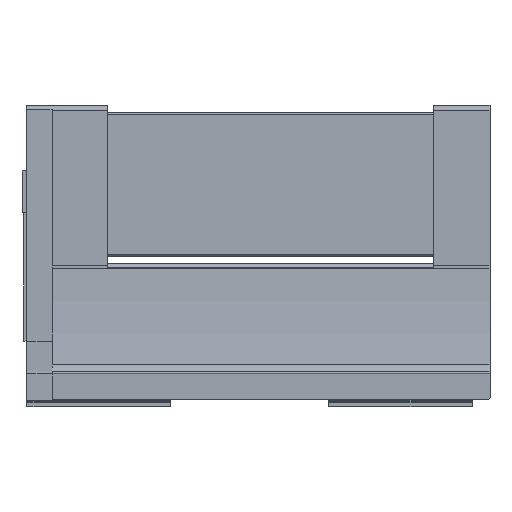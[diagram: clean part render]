
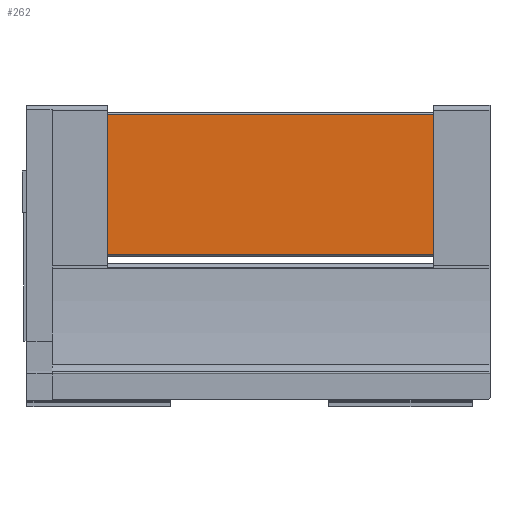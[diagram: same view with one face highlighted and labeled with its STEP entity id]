
A CAD part, left-side view. The second image highlights one B-rep face of the part: STEP entity #262.
In plain terms, the highlighted planar face has unit normal (-1, 0, 0).
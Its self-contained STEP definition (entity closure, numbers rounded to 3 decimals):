
#55 = EDGE_CURVE ( 'NONE', #1989, #1966, #2195, .T. ) ;
#59 = EDGE_CURVE ( 'NONE', #1962, #1989, #2184, .T. ) ;
#69 = EDGE_CURVE ( 'NONE', #1962, #1967, #2170, .T. ) ;
#214 = EDGE_CURVE ( 'NONE', #1967, #1966, #4370, .T. ) ;
#262 = ADVANCED_FACE ( 'NONE', ( #4391 ), #3214, .T. ) ;
#420 = AXIS2_PLACEMENT_3D ( 'NONE', #3217, #3223, #3224 ) ;
#1370 = CARTESIAN_POINT ( 'NONE',  ( -9.6, 239.3, 142.798 ) ) ;
#1374 = CARTESIAN_POINT ( 'NONE',  ( -9.6, 35.3, 55.298 ) ) ;
#1375 = CARTESIAN_POINT ( 'NONE',  ( -9.6, 35.3, 142.798 ) ) ;
#1397 = CARTESIAN_POINT ( 'NONE',  ( -9.6, 239.3, 55.298 ) ) ;
#1680 = ORIENTED_EDGE ( 'NONE', *, *, #69, .F. ) ;
#1681 = ORIENTED_EDGE ( 'NONE', *, *, #214, .F. ) ;
#1682 = ORIENTED_EDGE ( 'NONE', *, *, #59, .T. ) ;
#1697 = ORIENTED_EDGE ( 'NONE', *, *, #55, .T. ) ;
#1962 = VERTEX_POINT ( 'NONE', #1370 ) ;
#1966 = VERTEX_POINT ( 'NONE', #1374 ) ;
#1967 = VERTEX_POINT ( 'NONE', #1375 ) ;
#1989 = VERTEX_POINT ( 'NONE', #1397 ) ;
#2170 = LINE ( 'NONE', #2796, #2174 ) ;
#2174 = VECTOR ( 'NONE', #2797, 1000. ) ;
#2177 = VECTOR ( 'NONE', #2776, 1000. ) ;
#2184 = LINE ( 'NONE', #2772, #2177 ) ;
#2186 = VECTOR ( 'NONE', #2762, 1000. ) ;
#2195 = LINE ( 'NONE', #2755, #2186 ) ;
#2755 = CARTESIAN_POINT ( 'NONE',  ( -9.6, 395., 55.298 ) ) ;
#2762 = DIRECTION ( 'NONE',  ( 0., -1., 0. ) ) ;
#2772 = CARTESIAN_POINT ( 'NONE',  ( -9.6, 239.3, 142.798 ) ) ;
#2776 = DIRECTION ( 'NONE',  ( 0., 0., -1. ) ) ;
#2796 = CARTESIAN_POINT ( 'NONE',  ( -9.6, 395., 142.798 ) ) ;
#2797 = DIRECTION ( 'NONE',  ( 0., -1., 0. ) ) ;
#3102 = CARTESIAN_POINT ( 'NONE',  ( -9.6, 35.3, 142.798 ) ) ;
#3103 = DIRECTION ( 'NONE',  ( 0., 0., -1. ) ) ;
#3214 = PLANE ( 'NONE',  #420 ) ;
#3217 = CARTESIAN_POINT ( 'NONE',  ( -9.6, 395., 142.798 ) ) ;
#3223 = DIRECTION ( 'NONE',  ( -1., 0., 0. ) ) ;
#3224 = DIRECTION ( 'NONE',  ( 0., 0., -1. ) ) ;
#3848 = EDGE_LOOP ( 'NONE', ( #1682, #1697, #1681, #1680 ) ) ;
#4304 = VECTOR ( 'NONE', #3103, 1000. ) ;
#4370 = LINE ( 'NONE', #3102, #4304 ) ;
#4391 = FACE_OUTER_BOUND ( 'NONE', #3848, .T. ) ;
